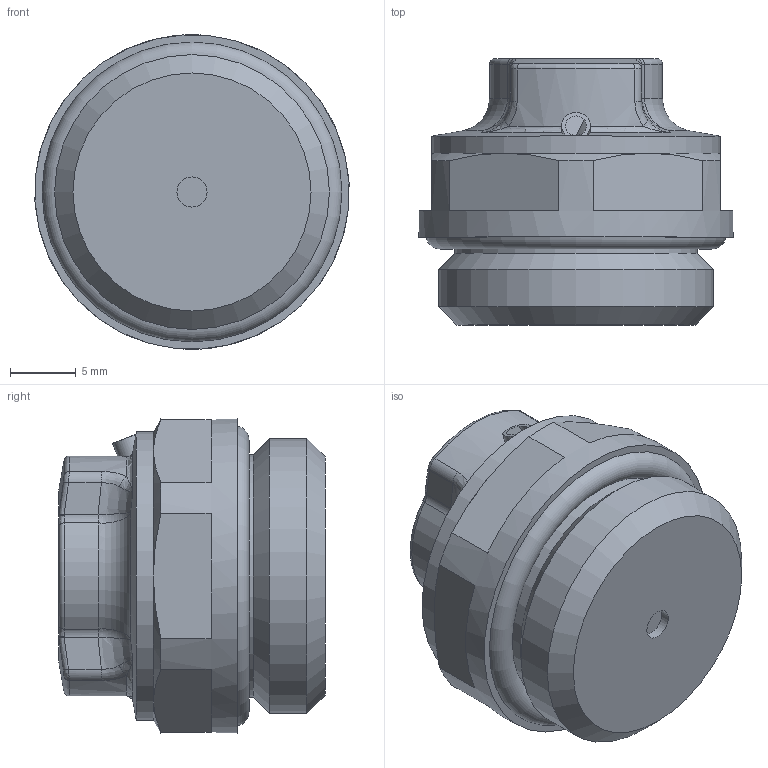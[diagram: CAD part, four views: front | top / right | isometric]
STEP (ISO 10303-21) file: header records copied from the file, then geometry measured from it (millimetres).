
FILE_DESCRIPTION(('STEP AP203'), '1');
FILE_NAME('R.400', '2024-08-22T11:24:57', ('User'), ('Vesta'), 'C3D Converter', 'C3D Toolkit', '');
FILE_SCHEMA(('CONFIG_CONTROL_DESIGN'));
Length unit declared in the file: millimetre
Products named in the file (1): ВР.305319.012.000 СБ
Bounding box: 23.95 x 20.3 x 23.98 mm (x, y, z)
Volume: 6055.5 mm3; surface area: 2967.5 mm2
Topology: 1 solids, 2 shells, 146 faces, 359 edges, 212 vertices
Faces by surface type: plane 43, bspline 36, cylinder 29, cone 25, torus 13
Full cylindrical faces by diameter (mm): 1.6 x1, 2.3 x1, 5 x1, 10.2 x1, 18.5 x1, 20.955 x1, 22 x1, 24 x1
Entity records: 9701 total; most frequent: CARTESIAN_POINT 6736, ORIENTED_EDGE 670, DIRECTION 482, EDGE_CURVE 335, VERTEX_POINT 220, AXIS2_PLACEMENT_3D 210, B_SPLINE_CURVE_WITH_KNOTS 170, EDGE_LOOP 163
